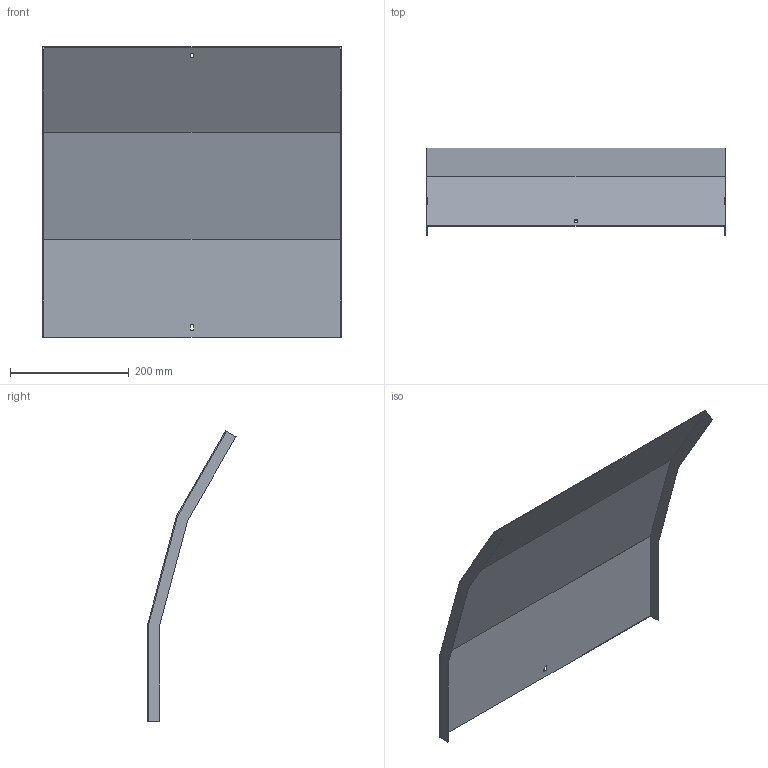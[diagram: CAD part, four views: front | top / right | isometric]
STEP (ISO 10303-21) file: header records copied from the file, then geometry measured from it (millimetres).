
FILE_DESCRIPTION (( 'STEP AP214' ), '1' );
FILE_NAME ('A2_35N3D500.step', '2025-02-21T10:30:51', ( '' ), ( '' ), 'SwSTEP 2.0', 'SolidWorks 2023', '' );
FILE_SCHEMA (( 'AUTOMOTIVE_DESIGN' ));
Length unit declared in the file: millimetre
Products named in the file (1): A2_35N3D500
Bounding box: 503 x 148.61 x 489.96 mm (x, y, z)
Volume: 419223.4 mm3; surface area: 562202.7 mm2
Topology: 1 solids, 1 shells, 26 faces, 72 edges, 48 vertices
Faces by surface type: plane 26
Entity records: 847 total; most frequent: CARTESIAN_POINT 147, ORIENTED_EDGE 144, DIRECTION 126, LINE 72, EDGE_CURVE 72, VECTOR 72, VERTEX_POINT 48, EDGE_LOOP 30
